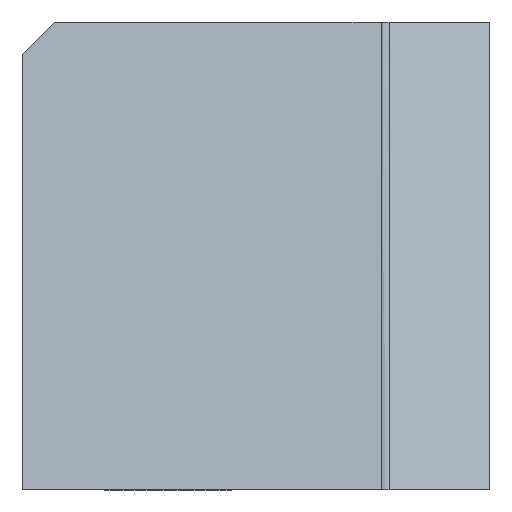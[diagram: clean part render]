
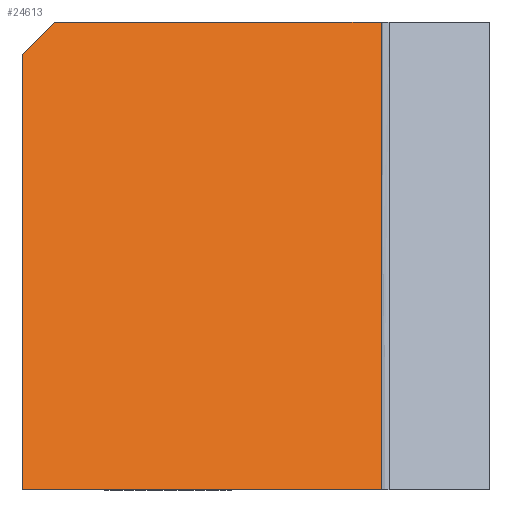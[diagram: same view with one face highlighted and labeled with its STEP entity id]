
A CAD part, left-side view. The second image highlights one B-rep face of the part: STEP entity #24613.
In plain terms, the highlighted planar face has unit normal (-0.943, 0, 0.334).
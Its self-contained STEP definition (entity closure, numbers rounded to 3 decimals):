
#2409=ORIENTED_EDGE('',*,*,#7783,.F.);
#2410=ORIENTED_EDGE('',*,*,#7784,.T.);
#2411=ORIENTED_EDGE('',*,*,#6440,.F.);
#2412=ORIENTED_EDGE('',*,*,#7785,.F.);
#2413=ORIENTED_EDGE('',*,*,#7180,.F.);
#6440=EDGE_CURVE('',#9127,#9128,#10894,.T.);
#7180=EDGE_CURVE('',#9866,#9868,#11391,.T.);
#7783=EDGE_CURVE('',#10470,#9866,#11794,.T.);
#7784=EDGE_CURVE('',#10470,#9128,#11795,.T.);
#7785=EDGE_CURVE('',#9868,#9127,#11796,.T.);
#9127=VERTEX_POINT('',#31907);
#9128=VERTEX_POINT('',#31908);
#9866=VERTEX_POINT('',#33934);
#9868=VERTEX_POINT('',#33937);
#10470=VERTEX_POINT('',#35143);
#10894=LINE('',#31906,#12979);
#11391=LINE('',#33936,#13476);
#11794=LINE('',#35142,#13879);
#11795=LINE('',#35144,#13880);
#11796=LINE('',#35145,#13881);
#12979=VECTOR('',#26847,1000.);
#13476=VECTOR('',#27766,1000.);
#13879=VECTOR('',#28571,1000.);
#13880=VECTOR('',#28572,1000.);
#13881=VECTOR('',#28573,1000.);
#15028=EDGE_LOOP('',(#2409,#2410,#2411,#2412,#2413));
#16113=FACE_BOUND('',#15028,.T.);
#17136=PLANE('',#26012);
#24613=ADVANCED_FACE('',(#16113),#17136,.T.);
#26012=AXIS2_PLACEMENT_3D('',#35141,#28569,#28570);
#26847=DIRECTION('',(0.,1.,0.));
#27766=DIRECTION('',(0.,-1.,0.));
#28569=DIRECTION('',(-0.942,0.,0.334));
#28570=DIRECTION('',(0.,1.,0.));
#28571=DIRECTION('',(0.243,-0.686,0.686));
#28572=DIRECTION('',(-0.334,0.,-0.942));
#28573=DIRECTION('',(-0.334,0.,-0.942));
#31906=CARTESIAN_POINT('',(-10.286,0.,-29.));
#31907=CARTESIAN_POINT('',(-10.286,-22.25,-29.));
#31908=CARTESIAN_POINT('',(-10.286,0.,-29.));
#33934=CARTESIAN_POINT('',(0.,-2.,0.));
#33936=CARTESIAN_POINT('',(0.,0.,0.));
#33937=CARTESIAN_POINT('',(0.,-22.25,0.));
#35141=CARTESIAN_POINT('',(0.,-22.25,0.));
#35142=CARTESIAN_POINT('',(1.596,-6.501,4.501));
#35143=CARTESIAN_POINT('',(-0.709,0.,-2.));
#35144=CARTESIAN_POINT('',(0.,0.,0.));
#35145=CARTESIAN_POINT('',(0.,-22.25,0.));
